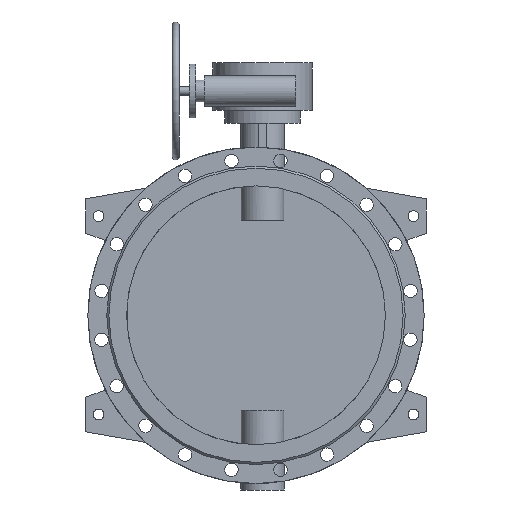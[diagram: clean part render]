
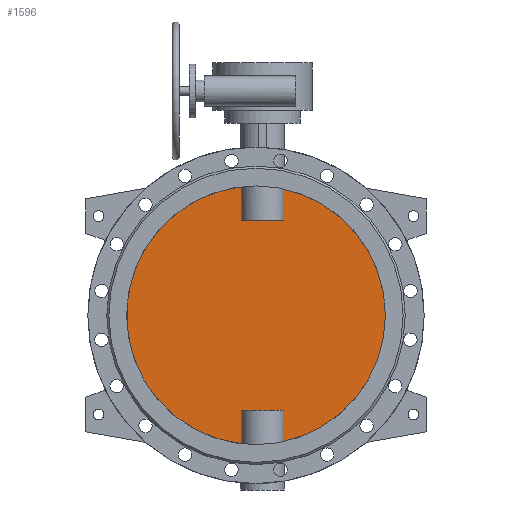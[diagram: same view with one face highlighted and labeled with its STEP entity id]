
A CAD part, front view. The second image highlights one B-rep face of the part: STEP entity #1596.
In plain terms, the highlighted planar face has unit normal (0, -1, 0).
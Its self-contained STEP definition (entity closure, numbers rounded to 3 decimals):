
#1596=ADVANCED_FACE('',(#3342),#3344,.F.);
#3342=FACE_BOUND('',#3343,.T.);
#3343=EDGE_LOOP('',(#4236,#4237,#4238,#4239,#4240,#4241,#4242,#4243));
#3344=PLANE('',#3345);
#3345=AXIS2_PLACEMENT_3D('',#3346,#3347,#3348);
#3346=CARTESIAN_POINT('',(0.,-5.,0.));
#3347=DIRECTION('',(0.,1.,0.));
#3348=DIRECTION('',(1.,0.,0.));
#4236=ORIENTED_EDGE('',*,*,#4693,.T.);
#4237=ORIENTED_EDGE('',*,*,#4699,.T.);
#4238=ORIENTED_EDGE('',*,*,#4700,.T.);
#4239=ORIENTED_EDGE('',*,*,#4701,.T.);
#4240=ORIENTED_EDGE('',*,*,#4695,.T.);
#4241=ORIENTED_EDGE('',*,*,#4702,.T.);
#4242=ORIENTED_EDGE('',*,*,#4703,.T.);
#4243=ORIENTED_EDGE('',*,*,#4704,.T.);
#4693=EDGE_CURVE('',#5410,#5411,#5412,.F.);
#4695=EDGE_CURVE('',#5415,#5413,#5416,.F.);
#4699=EDGE_CURVE('',#5411,#5422,#5423,.T.);
#4700=EDGE_CURVE('',#5422,#5424,#5425,.F.);
#4701=EDGE_CURVE('',#5424,#5415,#5426,.F.);
#4702=EDGE_CURVE('',#5413,#5427,#5428,.F.);
#4703=EDGE_CURVE('',#5427,#5429,#5430,.F.);
#4704=EDGE_CURVE('',#5429,#5410,#5431,.T.);
#5410=VERTEX_POINT('',#7924);
#5411=VERTEX_POINT('',#7925);
#5412=CIRCLE('',#7926,300.);
#5413=VERTEX_POINT('',#7930);
#5415=VERTEX_POINT('',#8017);
#5416=CIRCLE('',#8018,300.);
#5422=VERTEX_POINT('',#8140);
#5423=LINE('',#8141,#8142);
#5424=VERTEX_POINT('',#8144);
#5425=LINE('',#8145,#8146);
#5426=LINE('',#8148,#8149);
#5427=VERTEX_POINT('',#8151);
#5428=LINE('',#8152,#8153);
#5429=VERTEX_POINT('',#8155);
#5430=LINE('',#8156,#8157);
#5431=LINE('',#8159,#8160);
#7924=CARTESIAN_POINT('',(64.749,-5.,-292.929));
#7925=CARTESIAN_POINT('',(64.749,-5.,292.929));
#7926=AXIS2_PLACEMENT_3D('',#7927,#7928,#7929);
#7927=CARTESIAN_POINT('',(0.,-5.,0.));
#7928=DIRECTION('',(0.,1.,0.));
#7929=DIRECTION('',(0.216,0.,0.976));
#7930=CARTESIAN_POINT('',(-34.749,-5.,-297.981));
#8017=CARTESIAN_POINT('',(-34.749,-5.,297.981));
#8018=AXIS2_PLACEMENT_3D('',#8019,#8020,#8021);
#8019=CARTESIAN_POINT('',(0.,-5.,0.));
#8020=DIRECTION('',(0.,1.,0.));
#8021=DIRECTION('',(-0.116,0.,-0.993));
#8140=CARTESIAN_POINT('',(64.749,-5.,220.));
#8141=CARTESIAN_POINT('',(64.749,-5.,292.929));
#8142=VECTOR('',#8143,1.);
#8143=DIRECTION('',(0.,0.,-1.));
#8144=CARTESIAN_POINT('',(-34.749,-5.,220.));
#8145=CARTESIAN_POINT('',(-34.749,-5.,220.));
#8146=VECTOR('',#8147,1.);
#8147=DIRECTION('',(1.,0.,0.));
#8148=CARTESIAN_POINT('',(-34.749,-5.,297.981));
#8149=VECTOR('',#8150,1.);
#8150=DIRECTION('',(0.,0.,-1.));
#8151=CARTESIAN_POINT('',(-34.749,-5.,-220.));
#8152=CARTESIAN_POINT('',(-34.749,-5.,-220.));
#8153=VECTOR('',#8154,1.);
#8154=DIRECTION('',(0.,0.,-1.));
#8155=CARTESIAN_POINT('',(64.749,-5.,-220.));
#8156=CARTESIAN_POINT('',(64.749,-5.,-220.));
#8157=VECTOR('',#8158,1.);
#8158=DIRECTION('',(-1.,0.,0.));
#8159=CARTESIAN_POINT('',(64.749,-5.,-220.));
#8160=VECTOR('',#8161,1.);
#8161=DIRECTION('',(0.,0.,-1.));
